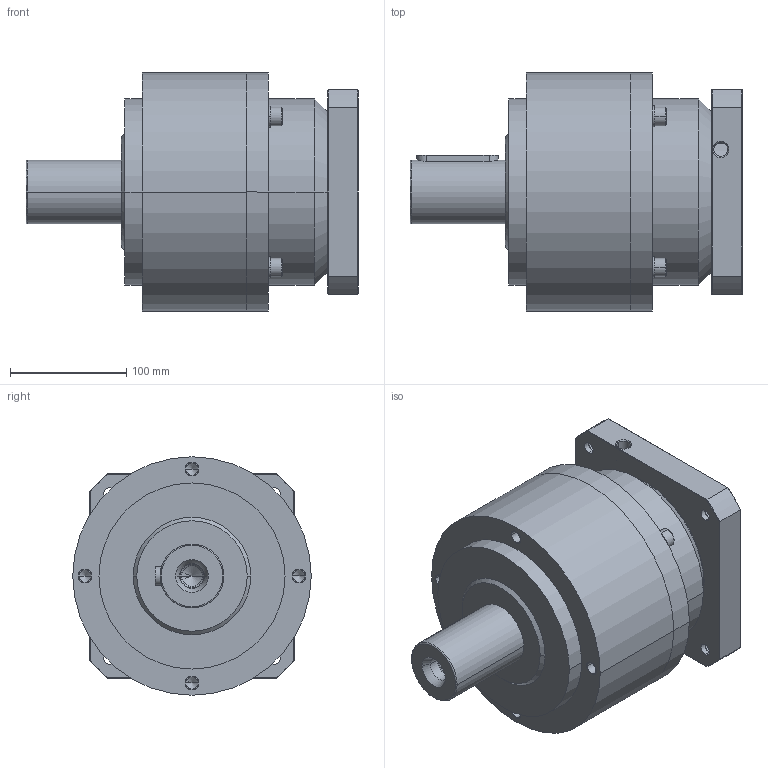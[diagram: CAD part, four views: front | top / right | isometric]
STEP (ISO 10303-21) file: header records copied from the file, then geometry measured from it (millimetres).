
FILE_DESCRIPTION((''),'2;1');
FILE_NAME('AE2051-P0403600401_ASM','2008-09-11T',('d00080'),(''),'PRO/ENGINEER BY PARAMETRIC TECHNOLOGY CORPORATION, 2006170','PRO/ENGINEER BY PARAMETRIC TECHNOLOGY CORPORATION, 2006170','');
FILE_SCHEMA(('CONFIG_CONTROL_DESIGN'));
Length unit declared in the file: millimetre
Products named in the file (7): AE205-1; P1302600001; 233100006; 220100906; COVER-SET-6_ASM; P0403600401; AE2051-P0403600401_ASM
Assembly tree (12 placements, depth 3):
  AE2051-P0403600401_ASM
    AE205-1
    COVER-SET-6_ASM
      P1302600001
      233100006  x4
      220100906  x4
    P0403600401
Bounding box: 285.5 x 205 x 205 mm (x, y, z)
Volume: 5468725 mm3; surface area: 404382 mm2
Topology: 11 solids, 21 shells, 406 faces, 940 edges, 581 vertices
Faces by surface type: cylinder 175, plane 137, cone 70, torus 24
Entity records: 9042 total; most frequent: CARTESIAN_POINT 1720, DIRECTION 1666, ORIENTED_EDGE 1352, EDGE_CURVE 696, AXIS2_PLACEMENT_3D 687, VERTEX_POINT 443, CIRCLE 363, EDGE_LOOP 359
